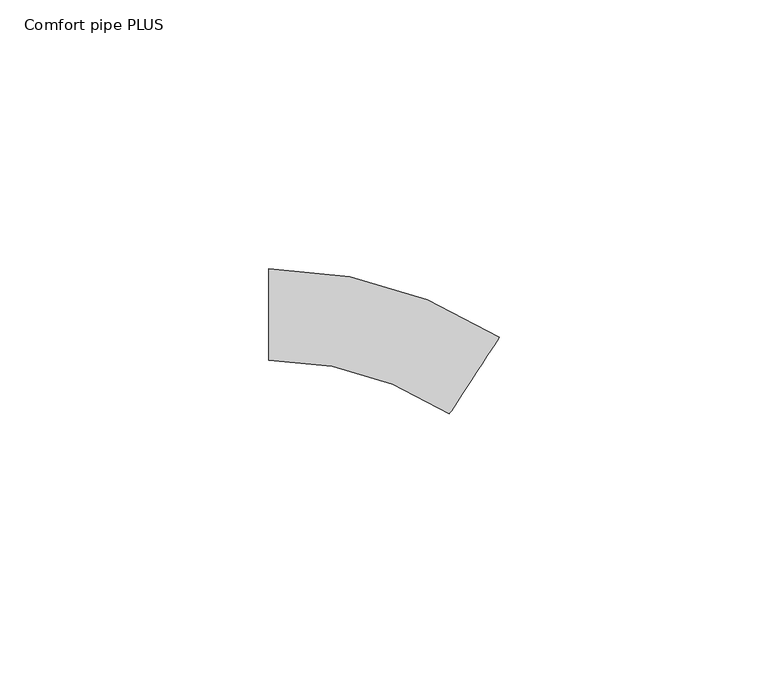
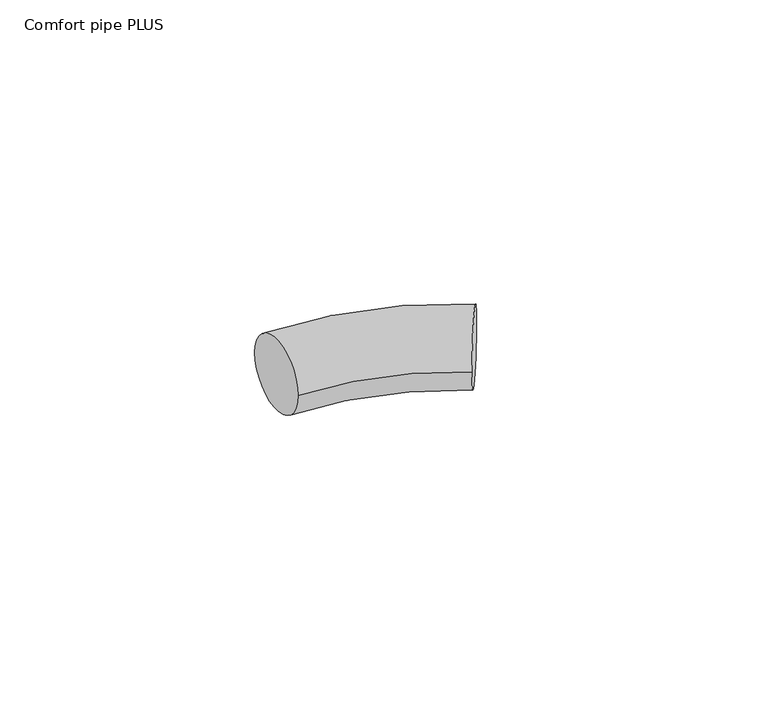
"""IFC4 building model written with IfcOpenShell, lengths in millimetres: pipe fitting geometry, 400_5-_Uponor_curved_Elbow : Comfort pipe PLUS."""

from ifc_helpers import new_model, si_unit, point, frame, origin, place, context, project, spatial, circle_curve, ellipse_curve, trimmed, source, transform, mapped, element, save
from ifc_brep_helpers import plane_surface, revolved_surface, advanced_brep


def comfort_pipe_plus_c0b00d21(model_context):
    return source(origin(), model_context, "Body", "AdvancedBrep", [
        advanced_brep(
        [(-20.821401, 8.5, 0.0), (-20.821401, -8.5, 0.0), (22.0821104, -4.2615887, 0.0), (12.7909041, -18.4979326, 0.0)],
        [
            (0, 1, circle_curve(frame((-20.821401, 0.0, 0.0), z_axis=(-1.0, 0.0, 0.0), x_axis=(0.0, -1.0, 0.0)), 8.5)),
            (1, 0, circle_curve(frame((-20.821401, 0.0, 0.0), z_axis=(-1.0, 0.0, 0.0), x_axis=(0.0, -1.0, 0.0)), 8.5)),
            (2, 3, circle_curve(frame((17.4365072, -11.3797607, 0.0), z_axis=(0.8374319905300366, -0.5465415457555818, 0.0), x_axis=(-0.5465415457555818, -0.8374319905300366, 0.0)), 8.5)),
            (3, 2, circle_curve(frame((17.4365072, -11.3797607, 0.0), z_axis=(0.8374319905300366, -0.5465415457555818, 0.0), x_axis=(-0.5465415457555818, -0.8374319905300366, 0.0)), 8.5)),
            (2, 0, circle_curve(frame((-20.821401, -70.0, 0.0), z_axis=(0.0, 0.0, 1.0), x_axis=(0.0, 1.0, 0.0)), 78.5)),
            (1, 3, circle_curve(frame((-20.821401, -70.0, 0.0), z_axis=(0.0, 0.0, -1.0), x_axis=(0.0, 1.0, 0.0)), 61.5)),
        ],
        [
            plane_surface(frame((-20.821401, 0.0, 0.0), z_axis=(-1.0, 0.0, 0.0), x_axis=(0.0, 0.0, 1.0))),
            plane_surface(frame((17.4365072, -11.3797607, 0.0), z_axis=(0.8374319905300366, -0.546541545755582, 0.0), x_axis=(0.0, 0.0, 1.0))),
            revolved_surface(trimmed(ellipse_curve(frame((-20.821401, 0.0, 0.0), z_axis=(1.0, 0.0, 0.0), x_axis=(0.0, -1.0, 0.0)), 8.5, 8.5), [point((-20.821401, 8.5, 0.0))], [point((-20.821401, -8.5, 0.0))], True, "CARTESIAN"), (-20.821401, -70.0, 0.0), (0.0, 0.0, 1.0)),
            revolved_surface(trimmed(ellipse_curve(frame((-20.821401, 0.0, 0.0), z_axis=(1.0, 0.0, 0.0), x_axis=(0.0, -1.0, 0.0)), 8.5, 8.5), [point((-20.821401, -8.5, 0.0))], [point((-20.821401, 8.5, 0.0))], True, "CARTESIAN"), (-20.821401, -70.0, 0.0), (0.0, 0.0, 1.0)),
        ],
        [
            (0, [[1, 2]]),
            (1, [[3, 4]]),
            (2, [[-3, 5, -2, 6]]),
            (3, [[-4, -6, -1, -5]]),
        ],
    ),
    ])


if __name__ == "__main__":
    model = new_model("IFC4")
    model_context = context("Model", 3, world=origin())
    ifc_project = project(units=[si_unit("LENGTHUNIT", "METRE", prefix="MILLI")], contexts=[model_context])
    site = spatial("IfcSite", under=ifc_project)
    building = spatial("IfcBuilding", under=site)
    placement = place(None, origin())
    comfort_pipe_plus_shape = comfort_pipe_plus_c0b00d21(model_context)
    element("IfcPipeFitting", 1, ObjectType="400_5-_Uponor_curved_Elbow : Comfort pipe PLUS", at=placement, inside=building, context=model_context, shape_type="MappedRepresentation", body=[
        mapped(comfort_pipe_plus_shape, transform((0.0, 0.0, 0.0), x_axis=(1.0, 0.0, 0.0), y_axis=(0.0, 1.0, 0.0), z_axis=(0.0, 0.0, 1.0))),
    ])
    save(model, "model.ifc")
